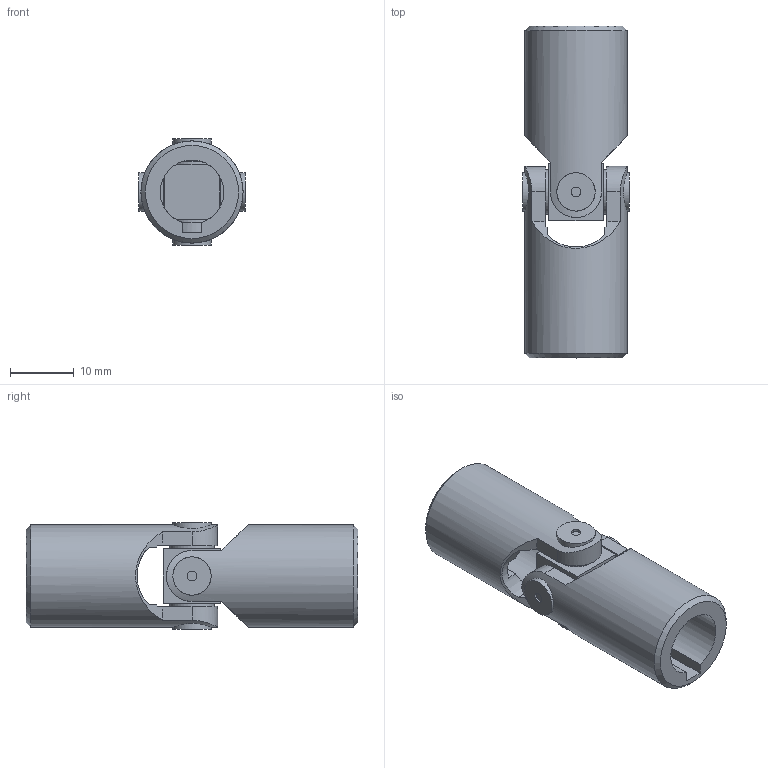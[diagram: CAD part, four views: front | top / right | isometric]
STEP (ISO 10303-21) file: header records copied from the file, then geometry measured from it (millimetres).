
FILE_DESCRIPTION(/* description */ ('EXTENSIBLE TRANSIMISSIONS Series G DIN 808 -2-'),/* implementation_level */ '2;1');
FILE_NAME(/* name */ '\\SRV2016\Societa\Stefano\Disegni 3D\Dis. Clienti\0000Catalogo 3D\01Singoli G-GB\Ø16_!03GB-2C_SGBS102C.stp',/* time_stamp */ '2021-11-10T15:12:53+01:00',/* author */ ('acquisti'),/* organization */ ('MARIOFERRI'),/* preprocessor_version */ 'ST-DEVELOPER v15.6',/* originating_system */ 'Autodesk Inventor 2015',/* authorisation */ '');
FILE_SCHEMA (('AUTOMOTIVE_DESIGN { 1 0 10303 214 3 1 1 }'));
Length unit declared in the file: millimetre
Products named in the file (3): 01-02G SFE; 03GB MOC; Assieme4
Assembly tree (3 placements, depth 2):
  Assieme4
    01-02G SFE
    03GB MOC  x2
Bounding box: 16.7 x 52 x 16.7 mm (x, y, z)
Volume: 6124.6 mm3; surface area: 4961.1 mm2
Topology: 3 solids, 3 shells, 80 faces, 208 edges, 142 vertices
Faces by surface type: plane 46, cylinder 20, cone 10, torus 4
Full cylindrical faces by diameter (mm): 1.5 x4, 6 x4, 7 x4, 16 x2
Entity records: 1549 total; most frequent: CARTESIAN_POINT 458, DIRECTION 213, ORIENTED_EDGE 200, EDGE_CURVE 100, AXIS2_PLACEMENT_3D 88, VERTEX_POINT 74, EDGE_LOOP 66, FACE_OUTER_BOUND 47
